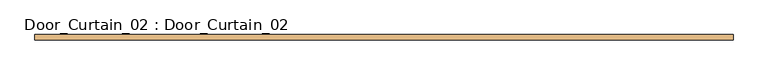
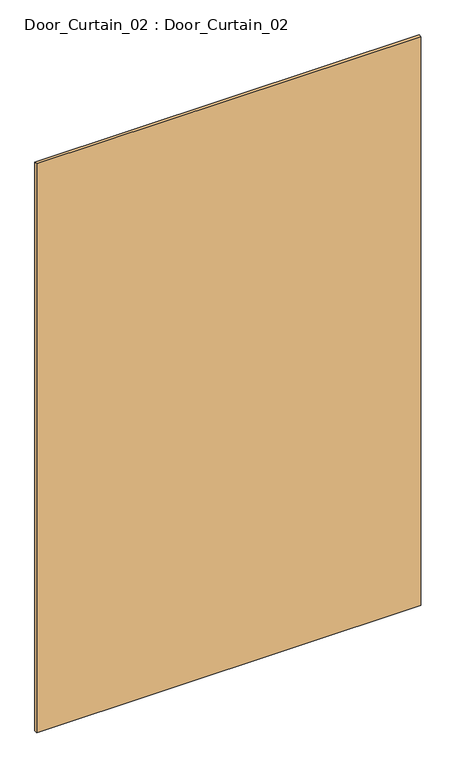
"""IFC4 building model written with IfcOpenShell, lengths in millimetres: door geometry, Door_Curtain_02 : Door_Curtain_02."""

from ifc_helpers import new_model, si_unit, origin, origin_with_axes, place, context, project, spatial, polyline, outline, extrude, source, transform, mapped, element, save


def door_curtain_02_door_curtain_02_e1191033(model_context):
    return source(origin(), model_context, "Body", "SweptSolid", [
        extrude(outline(polyline([(835.0, 5.0), (835.0, -7.7), (-835.0, -7.7), (-835.0, 5.0), (835.0, 5.0)])), origin_with_axes(), (0.0, 0.0, 1.0), 2615.0),
    ])


if __name__ == "__main__":
    model = new_model("IFC4")
    model_context = context("Model", 3, world=origin())
    ifc_project = project(units=[si_unit("LENGTHUNIT", "METRE", prefix="MILLI")], contexts=[model_context])
    site = spatial("IfcSite", under=ifc_project)
    building = spatial("IfcBuilding", under=site)
    placement = place(None, origin())
    door_curtain_02_door_curtain_02_shape = door_curtain_02_door_curtain_02_e1191033(model_context)
    element("IfcDoor", 1, ObjectType="Door_Curtain_02 : Door_Curtain_02", at=placement, inside=building, context=model_context, shape_type="MappedRepresentation", body=[
        mapped(door_curtain_02_door_curtain_02_shape, transform((0.0, 0.0, 0.0), x_axis=(1.0, 0.0, 0.0), y_axis=(0.0, 1.0, 0.0), z_axis=(0.0, 0.0, 1.0))),
    ])
    save(model, "model.ifc")
